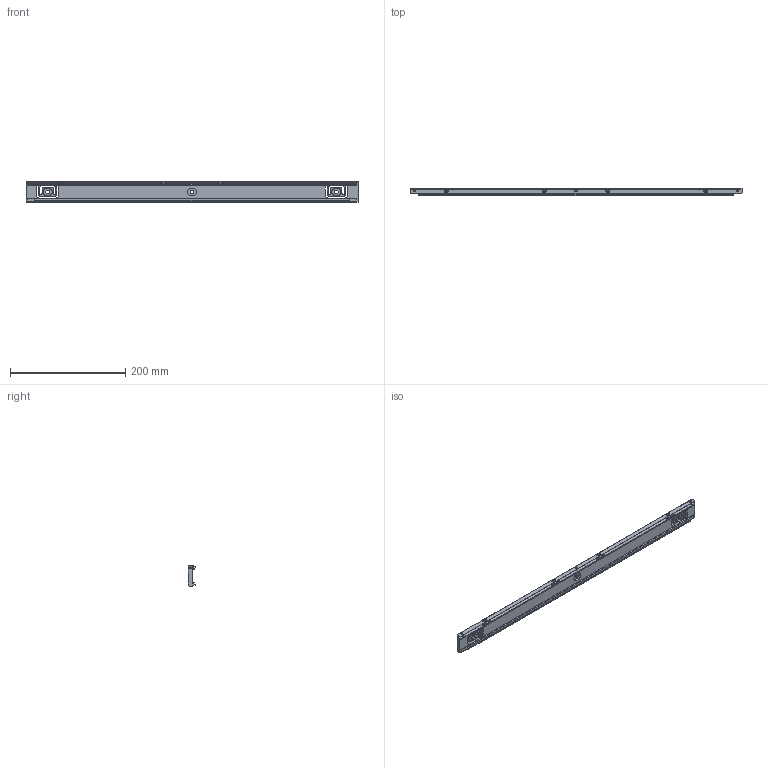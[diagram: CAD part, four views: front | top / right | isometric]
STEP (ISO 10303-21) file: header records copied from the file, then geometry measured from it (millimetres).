
FILE_DESCRIPTION(('Creo Elements/Direct Modeling STEP Export'),'2;1');
FILE_NAME('B3-470.stp','2020-10-30T12:26:54',(''),(''),'Creo Elements/Direct Modeling STEP processor for AP214 (Solid Model)','Creo Elements/Direct Modeling 19.0G 27-Nov-2017 (C) Parametric Technology GmbH','');
FILE_SCHEMA(('AUTOMOTIVE_DESIGN { 1 0 10303 214 1 1 1 1 }'));
Length unit declared in the file: millimetre
Products named in the file (2): PERFIL_SOPORTE_MECANIZADO_REGLA_SV3-470
Assembly tree (1 placements, depth 2):
  PERFIL_SOPORTE_MECANIZADO_REGLA_SV3-470
    PERFIL_SOPORTE_MECANIZADO_REGLA_SV3-470
Bounding box: 575 x 12.13 x 36.1 mm (x, y, z)
Volume: 140009.6 mm3; surface area: 72496.8 mm2
Topology: 1 solids, 1 shells, 838 faces, 2454 edges, 1614 vertices
Faces by surface type: plane 448, cylinder 292, cone 66, torus 16, bspline 16
Entity records: 31030 total; most frequent: CARTESIAN_POINT 6848, ORIENTED_EDGE 4884, DIRECTION 4105, EDGE_CURVE 2442, VERTEX_POINT 1614, VECTOR 1387, LINE 1387, AXIS2_PLACEMENT_3D 1359
